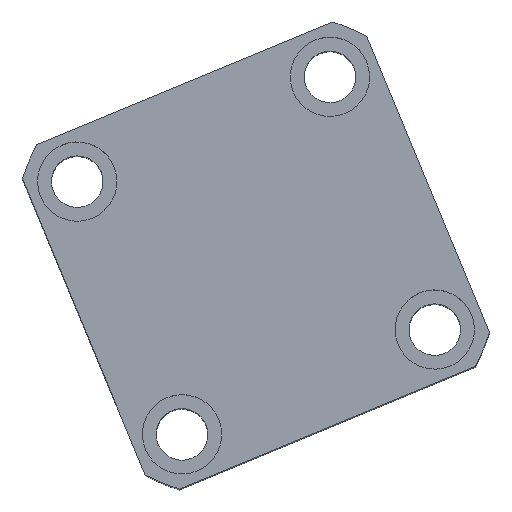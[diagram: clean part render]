
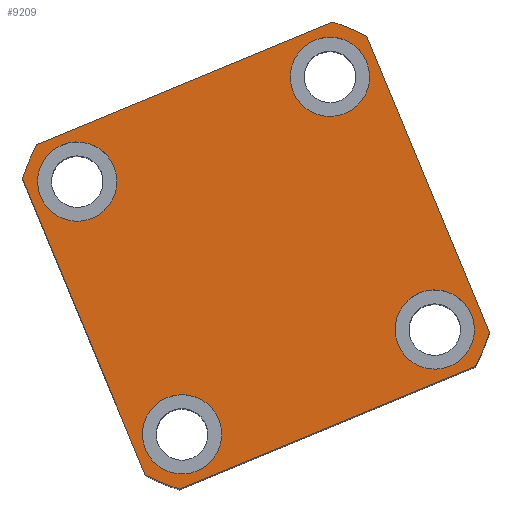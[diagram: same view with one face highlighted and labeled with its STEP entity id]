
A CAD part, top view. The second image highlights one B-rep face of the part: STEP entity #9209.
In plain terms, the highlighted planar face has unit normal (0, 0, 1) as drawn and (0, 0, -1) by its records, which use the part's own axes.
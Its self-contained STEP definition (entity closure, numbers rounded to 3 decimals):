
#423 = CIRCLE ( 'NONE', #17412, 10. ) ;
#530 = CARTESIAN_POINT ( 'NONE',  ( -44.5, -34.5, 0. ) ) ;
#543 = CARTESIAN_POINT ( 'NONE',  ( 40.435, 47., 0. ) ) ;
#557 = CARTESIAN_POINT ( 'NONE',  ( -34.5, -34.5, 0. ) ) ;
#624 = ORIENTED_EDGE ( 'NONE', *, *, #10189, .F. ) ;
#696 = CIRCLE ( 'NONE', #8325, 62. ) ;
#982 = PLANE ( 'NONE',  #2941 ) ;
#1152 = VERTEX_POINT ( 'NONE', #1349 ) ;
#1345 = EDGE_CURVE ( 'NONE', #4163, #1152, #9243, .T. ) ;
#1349 = CARTESIAN_POINT ( 'NONE',  ( 47., -40.435, 0. ) ) ;
#1683 = EDGE_LOOP ( 'NONE', ( #11356, #6836 ) ) ;
#2105 = VERTEX_POINT ( 'NONE', #18250 ) ;
#2191 = CARTESIAN_POINT ( 'NONE',  ( 0., 0., 0. ) ) ;
#2225 = VERTEX_POINT ( 'NONE', #6475 ) ;
#2287 = VERTEX_POINT ( 'NONE', #16025 ) ;
#2298 = DIRECTION ( 'NONE',  ( -1., 0., 0. ) ) ;
#2383 = EDGE_LOOP ( 'NONE', ( #22222, #20814 ) ) ;
#2457 = VERTEX_POINT ( 'NONE', #17908 ) ;
#2673 = CARTESIAN_POINT ( 'NONE',  ( -40.435, 47., 0. ) ) ;
#2778 = CARTESIAN_POINT ( 'NONE',  ( 34.5, -34.5, 0. ) ) ;
#2780 = ORIENTED_EDGE ( 'NONE', *, *, #11390, .F. ) ;
#2829 = AXIS2_PLACEMENT_3D ( 'NONE', #16063, #5727, #17794 ) ;
#2874 = CIRCLE ( 'NONE', #4737, 62. ) ;
#2914 = EDGE_CURVE ( 'NONE', #1152, #16868, #8022, .T. ) ;
#2941 = AXIS2_PLACEMENT_3D ( 'NONE', #9582, #16510, #6180 ) ;
#3046 = VERTEX_POINT ( 'NONE', #530 ) ;
#3055 = EDGE_CURVE ( 'NONE', #3046, #11123, #19655, .T. ) ;
#3152 = ORIENTED_EDGE ( 'NONE', *, *, #13821, .F. ) ;
#3384 = AXIS2_PLACEMENT_3D ( 'NONE', #6038, #18108, #7764 ) ;
#3394 = CIRCLE ( 'NONE', #7591, 10. ) ;
#3428 = FACE_BOUND ( 'NONE', #10211, .T. ) ;
#3761 = CARTESIAN_POINT ( 'NONE',  ( 40.435, -47., 0. ) ) ;
#3925 = LINE ( 'NONE', #7403, #12575 ) ;
#3928 = DIRECTION ( 'NONE',  ( 1., 0., 0. ) ) ;
#4101 = CARTESIAN_POINT ( 'NONE',  ( 44.5, -34.5, 0. ) ) ;
#4110 = DIRECTION ( 'NONE',  ( 0., 0., -1. ) ) ;
#4163 = VERTEX_POINT ( 'NONE', #3761 ) ;
#4505 = DIRECTION ( 'NONE',  ( -1., 0., 0. ) ) ;
#4555 = EDGE_CURVE ( 'NONE', #11123, #3046, #20716, .T. ) ;
#4737 = AXIS2_PLACEMENT_3D ( 'NONE', #15092, #4748, #16829 ) ;
#4748 = DIRECTION ( 'NONE',  ( 0., 0., 1. ) ) ;
#4951 = CARTESIAN_POINT ( 'NONE',  ( -47., 40.435, 0. ) ) ;
#5279 = DIRECTION ( 'NONE',  ( 0., 1., 0. ) ) ;
#5351 = DIRECTION ( 'NONE',  ( 0., 0., 1. ) ) ;
#5723 = VERTEX_POINT ( 'NONE', #4101 ) ;
#5727 = DIRECTION ( 'NONE',  ( 0., 0., -1. ) ) ;
#5748 = CARTESIAN_POINT ( 'NONE',  ( -34.5, 34.5, 0. ) ) ;
#5789 = EDGE_LOOP ( 'NONE', ( #11144, #12852, #10372, #21439, #21087, #14841, #19004, #2780 ) ) ;
#5957 = VERTEX_POINT ( 'NONE', #2673 ) ;
#5983 = ORIENTED_EDGE ( 'NONE', *, *, #13539, .F. ) ;
#5986 = VERTEX_POINT ( 'NONE', #11804 ) ;
#6038 = CARTESIAN_POINT ( 'NONE',  ( 34.5, 34.5, 0. ) ) ;
#6180 = DIRECTION ( 'NONE',  ( 1., 0., 0. ) ) ;
#6475 = CARTESIAN_POINT ( 'NONE',  ( -47., -40.435, 0. ) ) ;
#6836 = ORIENTED_EDGE ( 'NONE', *, *, #21448, .F. ) ;
#7056 = AXIS2_PLACEMENT_3D ( 'NONE', #5748, #17814, #7469 ) ;
#7348 = CARTESIAN_POINT ( 'NONE',  ( 34.5, 34.5, 0. ) ) ;
#7403 = CARTESIAN_POINT ( 'NONE',  ( -47., -47., 0. ) ) ;
#7451 = FACE_OUTER_BOUND ( 'NONE', #5789, .T. ) ;
#7469 = DIRECTION ( 'NONE',  ( -1., 0., 0. ) ) ;
#7529 = AXIS2_PLACEMENT_3D ( 'NONE', #2191, #14268, #3928 ) ;
#7547 = CARTESIAN_POINT ( 'NONE',  ( -24.5, -34.5, 0. ) ) ;
#7591 = AXIS2_PLACEMENT_3D ( 'NONE', #20494, #10151, #22217 ) ;
#7764 = DIRECTION ( 'NONE',  ( -1., 0., 0. ) ) ;
#7963 = LINE ( 'NONE', #17822, #16606 ) ;
#8001 = FACE_BOUND ( 'NONE', #1683, .T. ) ;
#8022 = LINE ( 'NONE', #13891, #17211 ) ;
#8325 = AXIS2_PLACEMENT_3D ( 'NONE', #19012, #8647, #20746 ) ;
#8540 = EDGE_CURVE ( 'NONE', #2105, #5986, #16390, .T. ) ;
#8647 = DIRECTION ( 'NONE',  ( 0., 0., 1. ) ) ;
#8892 = EDGE_CURVE ( 'NONE', #2225, #2457, #18825, .T. ) ;
#8958 = CARTESIAN_POINT ( 'NONE',  ( -47., 47., 0. ) ) ;
#9093 = DIRECTION ( 'NONE',  ( -1., 0., 0. ) ) ;
#9209 = ADVANCED_FACE ( 'NONE', ( #8001, #21789, #3428, #12073, #7451 ), #982, .F. ) ;
#9243 = CIRCLE ( 'NONE', #7529, 62. ) ;
#9582 = CARTESIAN_POINT ( 'NONE',  ( 0., 0., 0. ) ) ;
#10151 = DIRECTION ( 'NONE',  ( 0., 0., -1. ) ) ;
#10189 = EDGE_CURVE ( 'NONE', #2287, #10668, #20440, .T. ) ;
#10211 = EDGE_LOOP ( 'NONE', ( #19665, #5983 ) ) ;
#10343 = EDGE_LOOP ( 'NONE', ( #3152, #624 ) ) ;
#10372 = ORIENTED_EDGE ( 'NONE', *, *, #1345, .F. ) ;
#10668 = VERTEX_POINT ( 'NONE', #18831 ) ;
#10827 = DIRECTION ( 'NONE',  ( 1., 0., 0. ) ) ;
#11123 = VERTEX_POINT ( 'NONE', #7547 ) ;
#11125 = CARTESIAN_POINT ( 'NONE',  ( 47., 40.435, 0. ) ) ;
#11144 = ORIENTED_EDGE ( 'NONE', *, *, #20027, .F. ) ;
#11356 = ORIENTED_EDGE ( 'NONE', *, *, #8540, .F. ) ;
#11390 = EDGE_CURVE ( 'NONE', #16763, #5957, #21816, .T. ) ;
#11782 = AXIS2_PLACEMENT_3D ( 'NONE', #7348, #19439, #9093 ) ;
#11804 = CARTESIAN_POINT ( 'NONE',  ( -24.5, 34.5, 0. ) ) ;
#12073 = FACE_BOUND ( 'NONE', #10343, .T. ) ;
#12575 = VECTOR ( 'NONE', #10827, 1000. ) ;
#12638 = DIRECTION ( 'NONE',  ( 0., 0., -1. ) ) ;
#12646 = VECTOR ( 'NONE', #14174, 1000. ) ;
#12852 = ORIENTED_EDGE ( 'NONE', *, *, #2914, .F. ) ;
#12882 = AXIS2_PLACEMENT_3D ( 'NONE', #15703, #5351, #17419 ) ;
#13539 = EDGE_CURVE ( 'NONE', #5723, #17953, #17452, .T. ) ;
#13821 = EDGE_CURVE ( 'NONE', #10668, #2287, #19341, .T. ) ;
#13891 = CARTESIAN_POINT ( 'NONE',  ( 47., 47., 0. ) ) ;
#14174 = DIRECTION ( 'NONE',  ( -1., 0., 0. ) ) ;
#14268 = DIRECTION ( 'NONE',  ( 0., 0., 1. ) ) ;
#14450 = CARTESIAN_POINT ( 'NONE',  ( 34.5, -34.5, 0. ) ) ;
#14837 = DIRECTION ( 'NONE',  ( 0., 0., -1. ) ) ;
#14841 = ORIENTED_EDGE ( 'NONE', *, *, #15669, .F. ) ;
#15092 = CARTESIAN_POINT ( 'NONE',  ( 0., 0., 0. ) ) ;
#15667 = EDGE_CURVE ( 'NONE', #2457, #4163, #3925, .T. ) ;
#15669 = EDGE_CURVE ( 'NONE', #17564, #2225, #7963, .T. ) ;
#15703 = CARTESIAN_POINT ( 'NONE',  ( 0., 0., 0. ) ) ;
#16025 = CARTESIAN_POINT ( 'NONE',  ( 44.5, 34.5, 0. ) ) ;
#16063 = CARTESIAN_POINT ( 'NONE',  ( -34.5, -34.5, 0. ) ) ;
#16181 = DIRECTION ( 'NONE',  ( -1., 0., 0. ) ) ;
#16390 = CIRCLE ( 'NONE', #7056, 10. ) ;
#16510 = DIRECTION ( 'NONE',  ( 0., 0., 1. ) ) ;
#16606 = VECTOR ( 'NONE', #19577, 1000. ) ;
#16763 = VERTEX_POINT ( 'NONE', #543 ) ;
#16829 = DIRECTION ( 'NONE',  ( 1., 0., 0. ) ) ;
#16868 = VERTEX_POINT ( 'NONE', #11125 ) ;
#17211 = VECTOR ( 'NONE', #5279, 1000. ) ;
#17412 = AXIS2_PLACEMENT_3D ( 'NONE', #2778, #14837, #4505 ) ;
#17419 = DIRECTION ( 'NONE',  ( 1., 0., 0. ) ) ;
#17452 = CIRCLE ( 'NONE', #18860, 10. ) ;
#17564 = VERTEX_POINT ( 'NONE', #4951 ) ;
#17794 = DIRECTION ( 'NONE',  ( -1., 0., 0. ) ) ;
#17814 = DIRECTION ( 'NONE',  ( 0., 0., -1. ) ) ;
#17822 = CARTESIAN_POINT ( 'NONE',  ( -47., 47., 0. ) ) ;
#17908 = CARTESIAN_POINT ( 'NONE',  ( -40.435, -47., 0. ) ) ;
#17953 = VERTEX_POINT ( 'NONE', #21053 ) ;
#18108 = DIRECTION ( 'NONE',  ( 0., 0., -1. ) ) ;
#18250 = CARTESIAN_POINT ( 'NONE',  ( -44.5, 34.5, 0. ) ) ;
#18595 = AXIS2_PLACEMENT_3D ( 'NONE', #557, #12638, #2298 ) ;
#18825 = CIRCLE ( 'NONE', #12882, 62. ) ;
#18831 = CARTESIAN_POINT ( 'NONE',  ( 24.5, 34.5, 0. ) ) ;
#18860 = AXIS2_PLACEMENT_3D ( 'NONE', #14450, #4110, #16181 ) ;
#19004 = ORIENTED_EDGE ( 'NONE', *, *, #22213, .F. ) ;
#19012 = CARTESIAN_POINT ( 'NONE',  ( 0., 0., 0. ) ) ;
#19341 = CIRCLE ( 'NONE', #3384, 10. ) ;
#19439 = DIRECTION ( 'NONE',  ( 0., 0., -1. ) ) ;
#19577 = DIRECTION ( 'NONE',  ( 0., -1., 0. ) ) ;
#19655 = CIRCLE ( 'NONE', #2829, 10. ) ;
#19665 = ORIENTED_EDGE ( 'NONE', *, *, #21180, .F. ) ;
#20027 = EDGE_CURVE ( 'NONE', #16868, #16763, #2874, .T. ) ;
#20440 = CIRCLE ( 'NONE', #11782, 10. ) ;
#20494 = CARTESIAN_POINT ( 'NONE',  ( -34.5, 34.5, 0. ) ) ;
#20716 = CIRCLE ( 'NONE', #18595, 10. ) ;
#20746 = DIRECTION ( 'NONE',  ( 1., 0., 0. ) ) ;
#20814 = ORIENTED_EDGE ( 'NONE', *, *, #4555, .F. ) ;
#21053 = CARTESIAN_POINT ( 'NONE',  ( 24.5, -34.5, 0. ) ) ;
#21087 = ORIENTED_EDGE ( 'NONE', *, *, #8892, .F. ) ;
#21180 = EDGE_CURVE ( 'NONE', #17953, #5723, #423, .T. ) ;
#21439 = ORIENTED_EDGE ( 'NONE', *, *, #15667, .F. ) ;
#21448 = EDGE_CURVE ( 'NONE', #5986, #2105, #3394, .T. ) ;
#21789 = FACE_BOUND ( 'NONE', #2383, .T. ) ;
#21816 = LINE ( 'NONE', #8958, #12646 ) ;
#22213 = EDGE_CURVE ( 'NONE', #5957, #17564, #696, .T. ) ;
#22217 = DIRECTION ( 'NONE',  ( -1., 0., 0. ) ) ;
#22222 = ORIENTED_EDGE ( 'NONE', *, *, #3055, .F. ) ;
